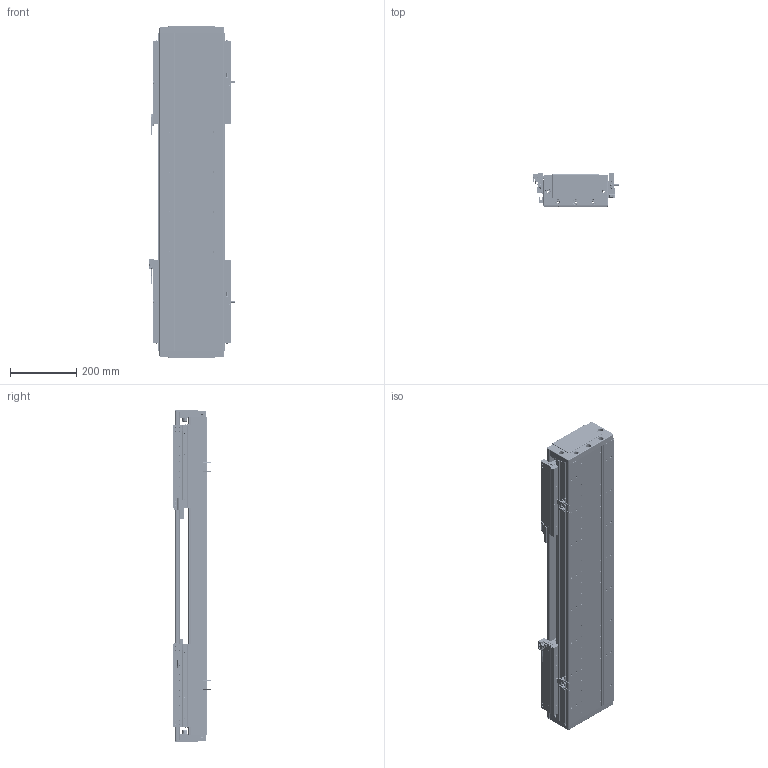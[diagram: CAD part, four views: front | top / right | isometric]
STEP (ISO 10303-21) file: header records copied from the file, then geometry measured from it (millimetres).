
FILE_DESCRIPTION (( 'STEP AP203' ), '1' );
FILE_NAME ('DA-C195-2-C3-T380-C010-0.2 眻盄萇儂.STEP', '2025-08-14T02:22:53', ( '' ), ( '' ), 'SwSTEP 2.0', 'SolidWorks 2019', '' );
FILE_SCHEMA (( 'CONFIG_CONTROL_DESIGN' ));
Length unit declared in the file: millimetre
Products named in the file (16): DA195-DG-H-00  端盖（压铸镂空版）; IU-CU195-L-00 菁釱(L960); IU-CU195-L 菁釱絳寢; CU195-C3賑輸-俋楷; DKW168-HXJ-ZJ-00 笢潔滅袉砎蝶; DKW-KGZ-ZJ-00 中间光电开关支架; DA-C195-2-C3-T380-C010-0.2 眻盄萇儂; 66156-0001-003-00 裔啣; MS200 棠掑喜S315-T240; PM-T45ㄗ侂狟ㄘ; DKW-GYP-ZJ-00 笢潔嫖萇覜茼え; 葩璃 DA95-GT-T-00; PM-Y65嫖萇羲壽郪璃; DA95-HXJ-00 遣喳砎蝶; LMT黍杅芛; DA165-GYP-00 光电感应片(默认)
Assembly tree (28 placements, depth 3):
  DA-C195-2-C3-T380-C010-0.2 眻盄萇儂
    IU-CU195-L 菁釱絳寢
      IU-CU195-L-00 菁釱(L960)
      葩璃 DA95-GT-T-00  x4
    LMT黍杅芛  x2
    MS200 棠掑喜S315-T240
    PM-T45ㄗ侂狟ㄘ  x4
    DA165-GYP-00 光电感应片(默认)  x2
    DA195-DG-H-00  端盖（压铸镂空版）  x2
    DA95-HXJ-00 遣喳砎蝶  x4
    PM-Y65嫖萇羲壽郪璃
    66156-0001-003-00 裔啣
    DKW168-HXJ-ZJ-00 笢潔滅袉砎蝶
    DKW-GYP-ZJ-00 笢潔嫖萇覜茼え
    DKW-KGZ-ZJ-00 中间光电开关支架
    CU195-C3賑輸-俋楷  x2
Bounding box: 258.2 x 115.6 x 1000 mm (x, y, z)
Volume: 9229109.2 mm3; surface area: 2492562.4 mm2
Topology: 146 solids, 218 shells, 7670 faces, 19264 edges, 11703 vertices
Faces by surface type: cylinder 3104, plane 2782, cone 914, bspline 718, torus 80, sphere 72
Entity records: 149951 total; most frequent: CARTESIAN_POINT 45266, ORIENTED_EDGE 21714, DIRECTION 20872, EDGE_CURVE 10857, AXIS2_PLACEMENT_3D 7599, VERTEX_POINT 6856, LINE 5674, VECTOR 5674
